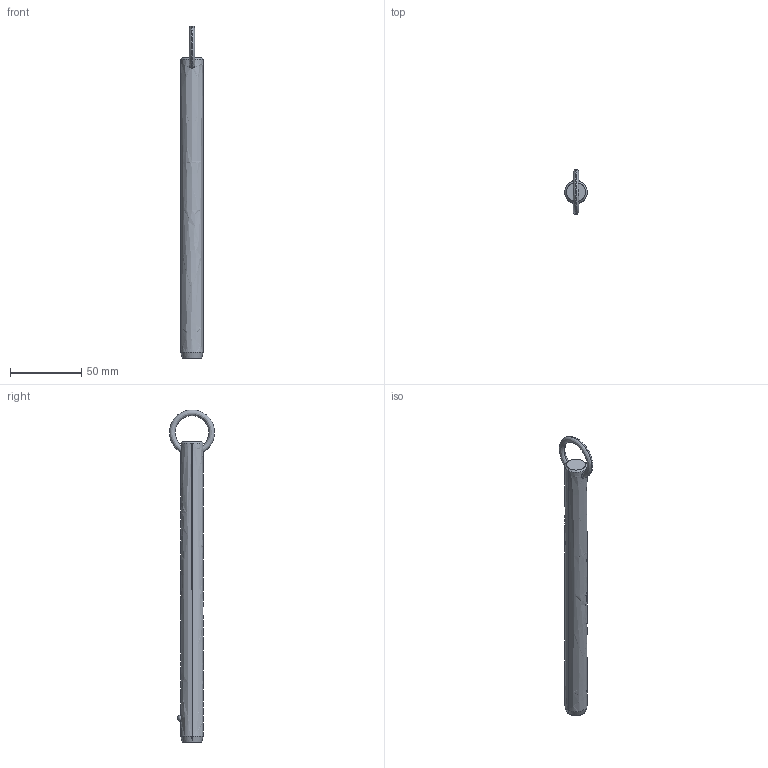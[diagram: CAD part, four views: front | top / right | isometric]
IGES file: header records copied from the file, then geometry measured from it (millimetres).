
Start section: SolidWorks IGES file using analytic representation for surfaces
Global section: file name: C:\Users\liam_\OneDrive\Documents\WORK\Work for WixRoyd\Job Files\J-00019 - Matt Davis CAD Checking\04. CAD Drawings\automotion20190605\P1250.2_v2\P1250.2_v2_20190729_IGES\P1250.062-720.igs; native system: SolidWorks 2017; preprocessor: SolidWorks 2017; author: liam_; date: 190729.234427; units: millimetre
Bounding box: 15.8 x 31.7 x 233.59 mm (x, y, z)
Surface area: 11667.1 mm2 (no closed solid volume)
Topology: 0 solids, 0 shells, 12 faces, 292 edges, 290 vertices
Faces by surface type: revolution 8, bspline 4
